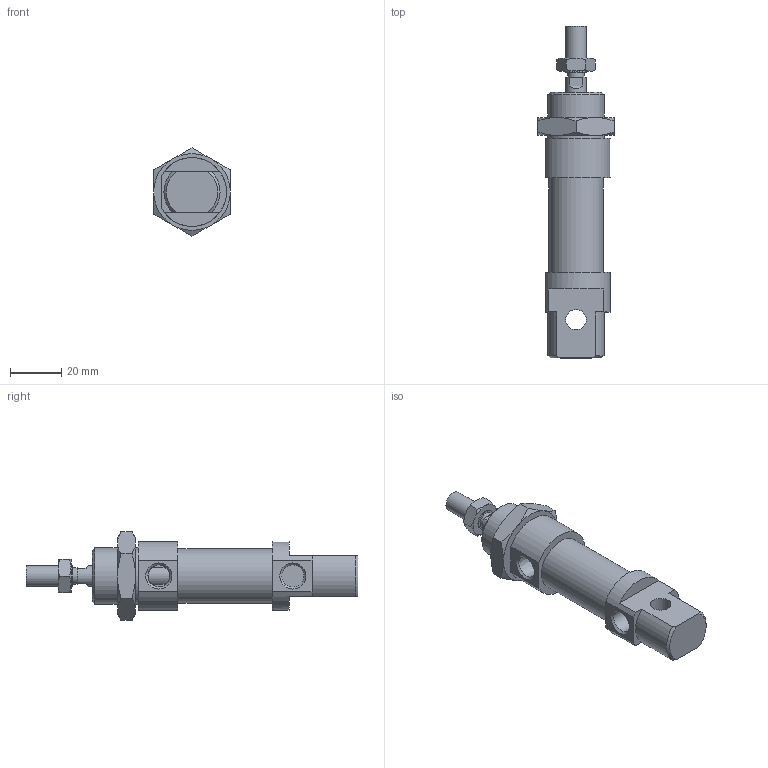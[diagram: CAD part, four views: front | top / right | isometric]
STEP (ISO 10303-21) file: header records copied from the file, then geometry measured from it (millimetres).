
FILE_DESCRIPTION((''),'2;1');
FILE_NAME('I:\Area Tecnica\Disegni\VARIE-3D\Componenti\1280\1280_##_####_#\1280_20_0000.iam.stp','2009-06-04T09:44:01',(''),(''),'Autodesk Inventor 2010','Autodesk Inventor 2010','');
FILE_SCHEMA(('AUTOMOTIVE_DESIGN { 1 0 10303 214 1 1 1 1 }'));
Length unit declared in the file: millimetre
Products named in the file (5): 1280_20_0000; C1280_20_0; S1280_20_0; 1200_20_05; 1200_20_06
Assembly tree (4 placements, depth 2):
  1280_20_0000
    C1280_20_0
    S1280_20_0
    1200_20_05
    1200_20_06
Bounding box: 30 x 130 x 34.64 mm (x, y, z)
Volume: 44356.9 mm3; surface area: 14531.4 mm2
Topology: 4 solids, 4 shells, 92 faces, 204 edges, 125 vertices
Faces by surface type: plane 41, cone 28, bspline 12, cylinder 11
Full cylindrical faces by diameter (mm): 6.5 x1, 8 x4, 21.2 x1, 22 x1
Entity records: 2742 total; most frequent: CARTESIAN_POINT 697, DIRECTION 376, ORIENTED_EDGE 356, EDGE_CURVE 178, AXIS2_PLACEMENT_3D 163, EDGE_LOOP 124, VERTEX_POINT 118, STYLED_ITEM 96
